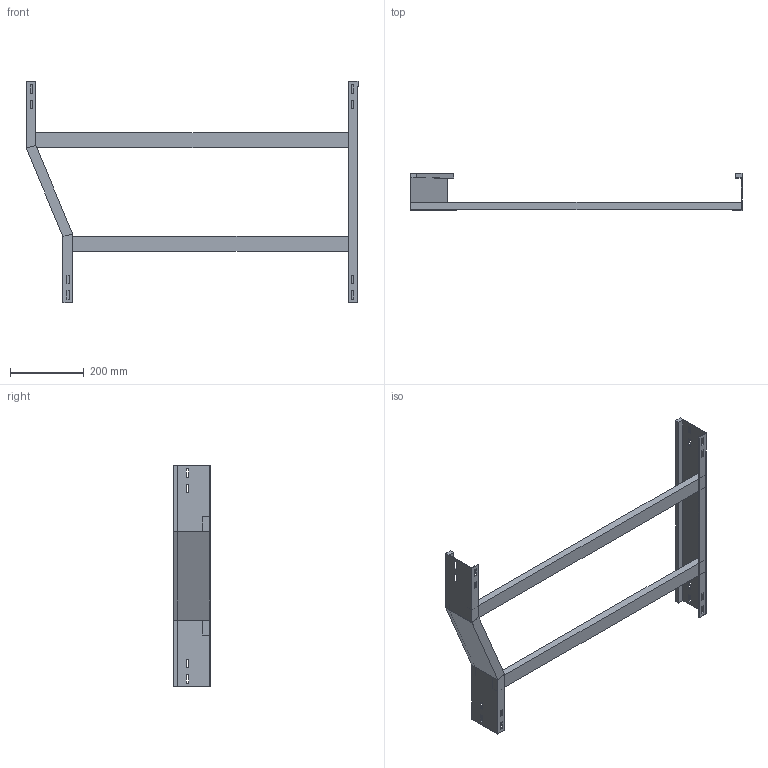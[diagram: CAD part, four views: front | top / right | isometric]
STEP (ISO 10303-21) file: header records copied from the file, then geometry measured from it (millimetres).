
FILE_DESCRIPTION (( 'STEP AP214' ), '1' );
FILE_NAME ('B2X21B8D900XX.step', '2025-09-02T17:18:08', ( '' ), ( '' ), 'SwSTEP 2.0', 'SolidWorks 2023', '' );
FILE_SCHEMA (( 'AUTOMOTIVE_DESIGN' ));
Length unit declared in the file: millimetre
Products named in the file (5): SPONDA DRITTA_H100; TRAVERSINO_800; B2X21B8D900XX; TRAVERSINO_900; SPONDA RID. DX 900-800_H100
Assembly tree (4 placements, depth 2):
  B2X21B8D900XX
    SPONDA RID. DX 900-800_H100
    TRAVERSINO_800
    TRAVERSINO_900
    SPONDA DRITTA_H100
Bounding box: 900 x 100 x 600 mm (x, y, z)
Volume: 1904832 mm3; surface area: 555588 mm2
Topology: 4 solids, 4 shells, 112 faces, 296 edges, 192 vertices
Faces by surface type: plane 112
Entity records: 3590 total; most frequent: CARTESIAN_POINT 607, ORIENTED_EDGE 592, DIRECTION 534, LINE 296, EDGE_CURVE 296, VECTOR 296, VERTEX_POINT 192, EDGE_LOOP 144
